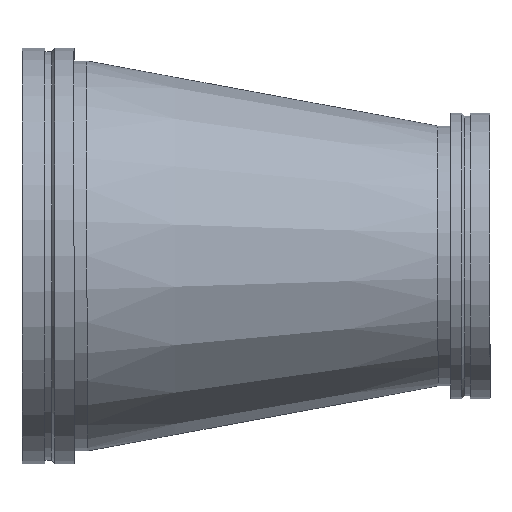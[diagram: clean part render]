
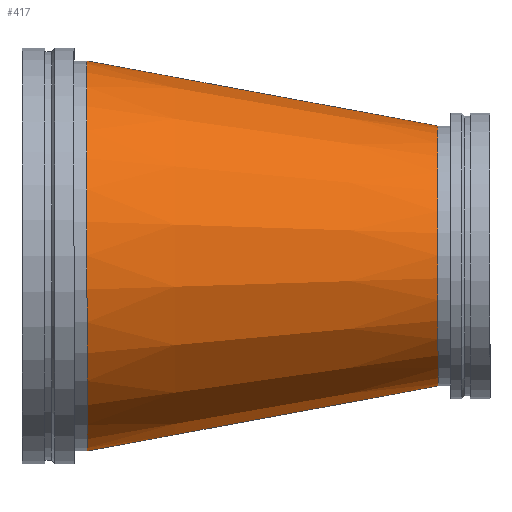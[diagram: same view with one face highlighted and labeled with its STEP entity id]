
A CAD part, top view. The second image highlights one B-rep face of the part: STEP entity #417.
In plain terms, the highlighted conical face has half-angle 10.491 degrees and reference radius 317.5 mm.
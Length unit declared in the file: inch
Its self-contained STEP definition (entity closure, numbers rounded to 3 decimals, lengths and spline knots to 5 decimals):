
#46=CONICAL_SURFACE('',#475,12.5,0.183);
#54=LINE('',#739,#68);
#68=VECTOR('',#587,12.5);
#101=FACE_OUTER_BOUND('',#124,.T.);
#124=EDGE_LOOP('',(#315,#316,#317,#318,#319,#320));
#155=CIRCLE('',#473,15.);
#156=CIRCLE('',#474,15.);
#157=CIRCLE('',#476,10.);
#158=CIRCLE('',#477,10.);
#195=VERTEX_POINT('',#729);
#196=VERTEX_POINT('',#730);
#197=VERTEX_POINT('',#735);
#198=VERTEX_POINT('',#736);
#239=EDGE_CURVE('',#195,#196,#155,.T.);
#240=EDGE_CURVE('',#196,#195,#156,.T.);
#242=EDGE_CURVE('',#197,#198,#157,.T.);
#243=EDGE_CURVE('',#198,#197,#158,.T.);
#244=EDGE_CURVE('',#198,#196,#54,.T.);
#315=ORIENTED_EDGE('',*,*,#242,.F.);
#316=ORIENTED_EDGE('',*,*,#243,.F.);
#317=ORIENTED_EDGE('',*,*,#244,.T.);
#318=ORIENTED_EDGE('',*,*,#240,.T.);
#319=ORIENTED_EDGE('',*,*,#239,.T.);
#320=ORIENTED_EDGE('',*,*,#244,.F.);
#417=ADVANCED_FACE('',(#101),#46,.T.);
#473=AXIS2_PLACEMENT_3D('',#731,#576,#577);
#474=AXIS2_PLACEMENT_3D('',#732,#578,#579);
#475=AXIS2_PLACEMENT_3D('',#734,#581,#582);
#476=AXIS2_PLACEMENT_3D('',#737,#583,#584);
#477=AXIS2_PLACEMENT_3D('',#738,#585,#586);
#576=DIRECTION('center_axis',(1.,0.,0.));
#577=DIRECTION('ref_axis',(0.,0.,-1.));
#578=DIRECTION('center_axis',(1.,0.,0.));
#579=DIRECTION('ref_axis',(0.,0.,-1.));
#581=DIRECTION('center_axis',(-1.,0.,0.));
#582=DIRECTION('ref_axis',(0.,1.,0.));
#583=DIRECTION('center_axis',(1.,0.,0.));
#584=DIRECTION('ref_axis',(0.,0.,-1.));
#585=DIRECTION('center_axis',(1.,0.,0.));
#586=DIRECTION('ref_axis',(0.,0.,-1.));
#587=DIRECTION('',(-0.983,-0.182,0.));
#729=CARTESIAN_POINT('',(5.,15.,0.));
#730=CARTESIAN_POINT('',(5.,-15.,0.));
#731=CARTESIAN_POINT('Origin',(5.,0.,0.));
#732=CARTESIAN_POINT('Origin',(5.,0.,0.));
#734=CARTESIAN_POINT('Origin',(18.5,0.,0.));
#735=CARTESIAN_POINT('',(32.,10.,0.));
#736=CARTESIAN_POINT('',(32.,-10.,0.));
#737=CARTESIAN_POINT('Origin',(32.,0.,0.));
#738=CARTESIAN_POINT('Origin',(32.,0.,0.));
#739=CARTESIAN_POINT('',(18.5,-12.5,0.));
